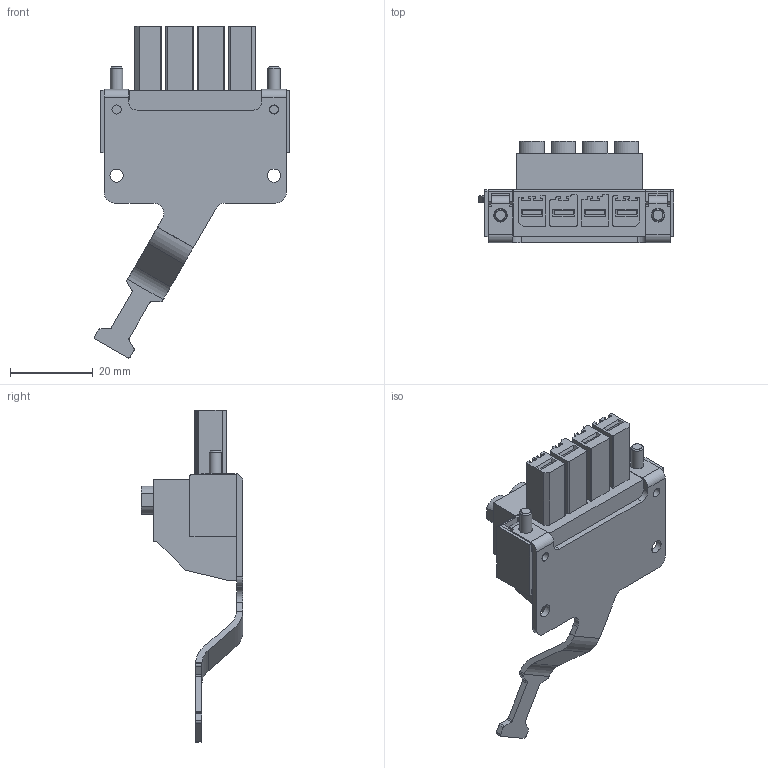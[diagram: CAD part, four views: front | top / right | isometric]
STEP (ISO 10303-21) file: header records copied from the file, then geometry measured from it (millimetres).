
FILE_DESCRIPTION(/* description */ ('Data from Parasolid IGES Translator 15.0.47, Copyright(c) 2006 Siemens PLM Software. All Rights Reserved. ','CAx-IF Rec.Pracs.---Representation and Presentation of Product Manufacturing Information (PMI)---3.8---2014-02-18'),/* implementation_level */ '2;1');
FILE_NAME(/* name */ 'C:\Users\FlorianVo\Desktop\STEPs\ZS4500-2013.stp',/* time_stamp */ '2019-04-05T14:23:07+02:00',/* author */ ('FlorianVo'),/* organization */ ('Noname'),/* preprocessor_version */ 'ST-DEVELOPER v16.13',/* originating_system */ 'Autodesk Inventor 2018',/* authorisation */ '');
FILE_SCHEMA (('AP242_MANAGED_MODEL_BASED_3D_ENGINEERING_MIM_LF { 1 0 10303 442 1 1 4 }'));
Length unit declared in the file: millimetre
Products named in the file (1): ZS4500-2013
Bounding box: 47.31 x 24.6 x 80.33 mm (x, y, z)
Surface area: 12075.6 mm2 (no closed solid volume)
Topology: 0 solids, 450 shells, 450 faces, 2412 edges, 2392 vertices
Faces by surface type: plane 341, cylinder 105, cone 4
Full cylindrical faces by diameter (mm): 2.2 x2, 2.65 x2, 3 x2, 3.2 x2, 3.3 x2, 5.2 x4, 6 x2
Entity records: 24547 total; most frequent: CARTESIAN_POINT 5510, DIRECTION 3744, VERTEX_POINT 2388, EDGE_CURVE 2388, ORIENTED_EDGE 2388, LINE 1928, VECTOR 1928, AXIS2_PLACEMENT_3D 912
